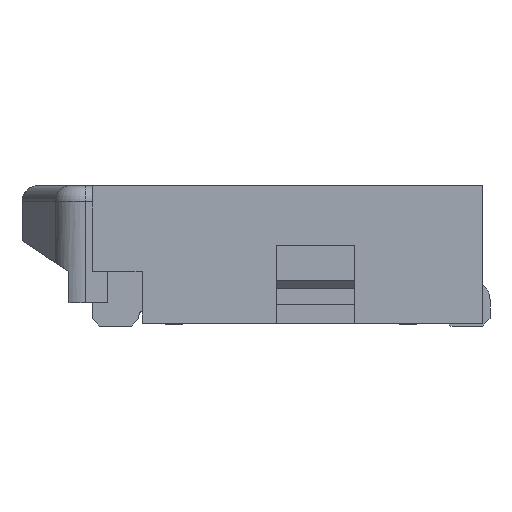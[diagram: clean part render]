
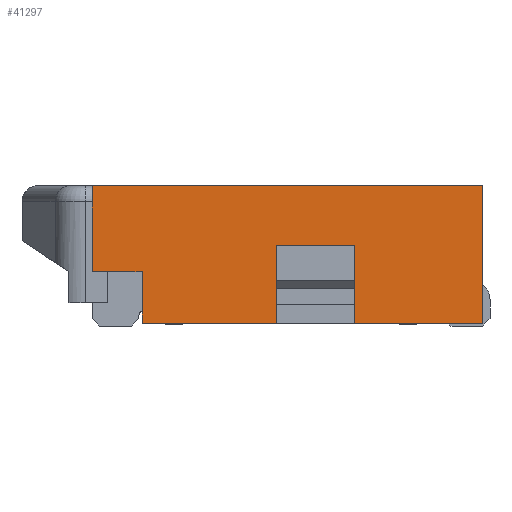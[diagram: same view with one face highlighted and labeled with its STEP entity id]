
A CAD part, left-side view. The second image highlights one B-rep face of the part: STEP entity #41297.
In plain terms, the highlighted planar face has unit normal (-1, 0, 0).
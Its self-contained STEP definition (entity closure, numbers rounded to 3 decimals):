
#687 = LINE ( 'NONE', #8642, #52037 ) ;
#827 = DIRECTION ( 'NONE',  ( 0., -1., 0. ) ) ;
#1160 = VECTOR ( 'NONE', #28031, 1000. ) ;
#3137 = CARTESIAN_POINT ( 'NONE',  ( -3., -1.68, -0.88 ) ) ;
#3316 = DIRECTION ( 'NONE',  ( 0., 0., -1. ) ) ;
#4158 = LINE ( 'NONE', #50033, #14939 ) ;
#5445 = CARTESIAN_POINT ( 'NONE',  ( -3., -0.32, -0.55 ) ) ;
#5652 = VECTOR ( 'NONE', #38536, 1000. ) ;
#6364 = CARTESIAN_POINT ( 'NONE',  ( -3., 0., -0.55 ) ) ;
#6701 = EDGE_CURVE ( 'NONE', #35261, #19225, #39973, .T. ) ;
#6749 = CARTESIAN_POINT ( 'NONE',  ( -3., -2.5, -0.88 ) ) ;
#7742 = EDGE_LOOP ( 'NONE', ( #33341, #33452, #48430, #19102, #24072, #50405, #15575, #21775, #29422, #49823 ) ) ;
#8642 = CARTESIAN_POINT ( 'NONE',  ( -3., -0.32, -0.88 ) ) ;
#10188 = CARTESIAN_POINT ( 'NONE',  ( -3., -1.18, -0.38 ) ) ;
#10397 = CARTESIAN_POINT ( 'NONE',  ( -3., -1.18, -0.88 ) ) ;
#10463 = CARTESIAN_POINT ( 'NONE',  ( -3., -2.5, -0.88 ) ) ;
#11529 = EDGE_CURVE ( 'NONE', #51174, #42346, #19131, .T. ) ;
#11687 = VERTEX_POINT ( 'NONE', #52067 ) ;
#11894 = VERTEX_POINT ( 'NONE', #37176 ) ;
#12437 = VERTEX_POINT ( 'NONE', #49500 ) ;
#12722 = DIRECTION ( 'NONE',  ( 0., 0., 1. ) ) ;
#13614 = EDGE_CURVE ( 'NONE', #11894, #35739, #42452, .T. ) ;
#14519 = DIRECTION ( 'NONE',  ( 0., -1., 0. ) ) ;
#14939 = VECTOR ( 'NONE', #25766, 1000. ) ;
#15298 = DIRECTION ( 'NONE',  ( 1., 0., 0. ) ) ;
#15575 = ORIENTED_EDGE ( 'NONE', *, *, #13614, .T. ) ;
#16631 = AXIS2_PLACEMENT_3D ( 'NONE', #39575, #15298, #43636 ) ;
#17767 = LINE ( 'NONE', #19436, #27247 ) ;
#19102 = ORIENTED_EDGE ( 'NONE', *, *, #6701, .T. ) ;
#19131 = LINE ( 'NONE', #10463, #39454 ) ;
#19225 = VERTEX_POINT ( 'NONE', #35665 ) ;
#19436 = CARTESIAN_POINT ( 'NONE',  ( -3., -1.18, -0.38 ) ) ;
#19619 = VECTOR ( 'NONE', #37351, 1000. ) ;
#21038 = CARTESIAN_POINT ( 'NONE',  ( -3., -2.5, -0.88 ) ) ;
#21775 = ORIENTED_EDGE ( 'NONE', *, *, #41024, .F. ) ;
#22510 = EDGE_CURVE ( 'NONE', #11687, #11894, #4158, .T. ) ;
#23472 = VERTEX_POINT ( 'NONE', #48350 ) ;
#23941 = CARTESIAN_POINT ( 'NONE',  ( -3., 0., -0.55 ) ) ;
#24072 = ORIENTED_EDGE ( 'NONE', *, *, #29531, .T. ) ;
#24175 = DIRECTION ( 'NONE',  ( 0., 0., -1. ) ) ;
#25766 = DIRECTION ( 'NONE',  ( 0., 1., 0. ) ) ;
#27247 = VECTOR ( 'NONE', #3316, 1000. ) ;
#28031 = DIRECTION ( 'NONE',  ( 0., 1., 0. ) ) ;
#29422 = ORIENTED_EDGE ( 'NONE', *, *, #35483, .F. ) ;
#29531 = EDGE_CURVE ( 'NONE', #19225, #11687, #35879, .T. ) ;
#29675 = VECTOR ( 'NONE', #24175, 1000. ) ;
#31472 = CARTESIAN_POINT ( 'NONE',  ( -3., -0.32, -0.88 ) ) ;
#33257 = CARTESIAN_POINT ( 'NONE',  ( -3., 0., 0. ) ) ;
#33341 = ORIENTED_EDGE ( 'NONE', *, *, #47974, .F. ) ;
#33452 = ORIENTED_EDGE ( 'NONE', *, *, #48385, .T. ) ;
#35083 = DIRECTION ( 'NONE',  ( 0., 0., 1. ) ) ;
#35261 = VERTEX_POINT ( 'NONE', #3137 ) ;
#35483 = EDGE_CURVE ( 'NONE', #51174, #42250, #687, .T. ) ;
#35665 = CARTESIAN_POINT ( 'NONE',  ( -3., -2.5, -0.88 ) ) ;
#35739 = VERTEX_POINT ( 'NONE', #6364 ) ;
#35879 = LINE ( 'NONE', #6749, #46635 ) ;
#36463 = EDGE_CURVE ( 'NONE', #12437, #35261, #51282, .T. ) ;
#37176 = CARTESIAN_POINT ( 'NONE',  ( -3., 0., 0. ) ) ;
#37351 = DIRECTION ( 'NONE',  ( 0., 0., -1. ) ) ;
#37984 = LINE ( 'NONE', #10188, #5652 ) ;
#38536 = DIRECTION ( 'NONE',  ( 0., -1., 0. ) ) ;
#38698 = VECTOR ( 'NONE', #827, 1000. ) ;
#39399 = PLANE ( 'NONE',  #16631 ) ;
#39454 = VECTOR ( 'NONE', #14519, 1000. ) ;
#39575 = CARTESIAN_POINT ( 'NONE',  ( -3., -2.4, 0. ) ) ;
#39973 = LINE ( 'NONE', #21038, #38698 ) ;
#41024 = EDGE_CURVE ( 'NONE', #42250, #35739, #45568, .T. ) ;
#41297 = ADVANCED_FACE ( 'NONE', ( #51863 ), #39399, .F. ) ;
#42250 = VERTEX_POINT ( 'NONE', #5445 ) ;
#42346 = VERTEX_POINT ( 'NONE', #10397 ) ;
#42452 = LINE ( 'NONE', #33257, #19619 ) ;
#43636 = DIRECTION ( 'NONE',  ( 0., 1., 0. ) ) ;
#45568 = LINE ( 'NONE', #23941, #1160 ) ;
#46635 = VECTOR ( 'NONE', #35083, 1000. ) ;
#47974 = EDGE_CURVE ( 'NONE', #23472, #42346, #17767, .T. ) ;
#48350 = CARTESIAN_POINT ( 'NONE',  ( -3., -1.18, -0.38 ) ) ;
#48385 = EDGE_CURVE ( 'NONE', #23472, #12437, #37984, .T. ) ;
#48430 = ORIENTED_EDGE ( 'NONE', *, *, #36463, .T. ) ;
#49500 = CARTESIAN_POINT ( 'NONE',  ( -3., -1.68, -0.38 ) ) ;
#49823 = ORIENTED_EDGE ( 'NONE', *, *, #11529, .T. ) ;
#50033 = CARTESIAN_POINT ( 'NONE',  ( -3., 0., 0. ) ) ;
#50405 = ORIENTED_EDGE ( 'NONE', *, *, #22510, .T. ) ;
#51174 = VERTEX_POINT ( 'NONE', #31472 ) ;
#51282 = LINE ( 'NONE', #52543, #29675 ) ;
#51863 = FACE_OUTER_BOUND ( 'NONE', #7742, .T. ) ;
#52037 = VECTOR ( 'NONE', #12722, 1000. ) ;
#52067 = CARTESIAN_POINT ( 'NONE',  ( -3., -2.5, 0. ) ) ;
#52543 = CARTESIAN_POINT ( 'NONE',  ( -3., -1.68, -0.38 ) ) ;
